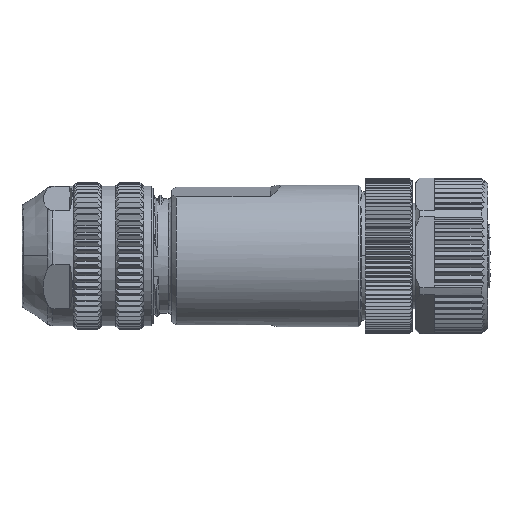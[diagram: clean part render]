
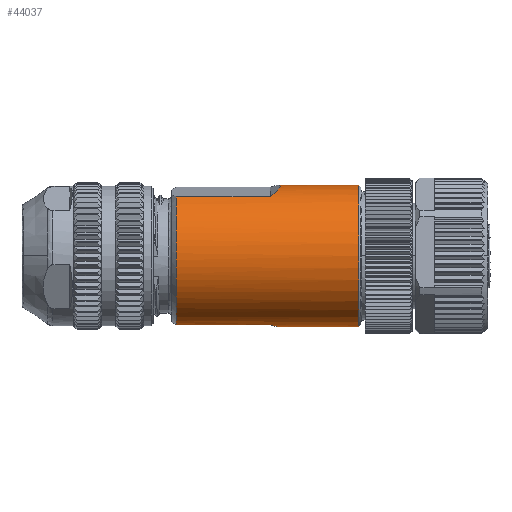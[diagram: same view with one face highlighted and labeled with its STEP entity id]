
A CAD part, top view. The second image highlights one B-rep face of the part: STEP entity #44037.
In plain terms, the highlighted cylindrical face has radius 9.06 mm (diameter 18.12 mm), a partial arc.
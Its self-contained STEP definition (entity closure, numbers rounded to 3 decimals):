
#104 = EDGE_CURVE ( 'NONE', #24553, #35416, #102437, .T. ) ;
#313 = CARTESIAN_POINT ( 'NONE',  ( -17.7, -8.339, 3.651 ) ) ;
#1721 = CARTESIAN_POINT ( 'NONE',  ( -17.7, -8.845, 1.961 ) ) ;
#2232 = ORIENTED_EDGE ( 'NONE', *, *, #88141, .T. ) ;
#2933 = CARTESIAN_POINT ( 'NONE',  ( -4.672, -9.06, 0. ) ) ;
#4516 = ORIENTED_EDGE ( 'NONE', *, *, #59266, .T. ) ;
#7847 = CARTESIAN_POINT ( 'NONE',  ( -17.7, -6.614, 6.207 ) ) ;
#8195 = CARTESIAN_POINT ( 'NONE',  ( -17.7, -3.762, 8.254 ) ) ;
#10297 = CARTESIAN_POINT ( 'NONE',  ( -5.656, -8.845, 1.961 ) ) ;
#11804 = DIRECTION ( 'NONE',  ( -1., 0., 0. ) ) ;
#14230 = CIRCLE ( 'NONE', #24419, 9.06 ) ;
#15332 = CARTESIAN_POINT ( 'NONE',  ( -17.7, 1.855, 8.879 ) ) ;
#17422 = CARTESIAN_POINT ( 'NONE',  ( -5.21, -8.988, 1.316 ) ) ;
#18520 = CARTESIAN_POINT ( 'NONE',  ( -17.1, 9.06, 0. ) ) ;
#20202 = DIRECTION ( 'NONE',  ( -1., 0., 0. ) ) ;
#21461 = VERTEX_POINT ( 'NONE', #92294 ) ;
#23203 = CARTESIAN_POINT ( 'NONE',  ( -5.656, -8.845, 1.961 ) ) ;
#23549 = CARTESIAN_POINT ( 'NONE',  ( -17.7, -2.086, 8.828 ) ) ;
#23893 = CARTESIAN_POINT ( 'NONE',  ( -17.7, -5.458, 7.234 ) ) ;
#24007 = CARTESIAN_POINT ( 'NONE',  ( 5.7, -9.06, 0. ) ) ;
#24253 = CARTESIAN_POINT ( 'NONE',  ( -17.7, -6.907, 5.88 ) ) ;
#24419 = AXIS2_PLACEMENT_3D ( 'NONE', #83199, #11804, #99535 ) ;
#24553 = VERTEX_POINT ( 'NONE', #34989 ) ;
#25315 = CARTESIAN_POINT ( 'NONE',  ( -17.7, -7.692, 4.807 ) ) ;
#25444 = ORIENTED_EDGE ( 'NONE', *, *, #32775, .F. ) ;
#28030 = CARTESIAN_POINT ( 'NONE',  ( -17.1, 0., 0. ) ) ;
#30000 = EDGE_CURVE ( 'NONE', #34169, #63819, #14230, .T. ) ;
#31422 = CARTESIAN_POINT ( 'NONE',  ( -17.7, 7.064, 5.743 ) ) ;
#31757 = CARTESIAN_POINT ( 'NONE',  ( -17.7, 1.423, 8.958 ) ) ;
#32775 = EDGE_CURVE ( 'NONE', #34169, #102875, #76618, .T. ) ;
#32778 = EDGE_CURVE ( 'NONE', #63819, #62917, #45972, .T. ) ;
#34002 = EDGE_LOOP ( 'NONE', ( #102851, #38996, #43763, #2232, #4516, #63761, #65264, #25444 ) ) ;
#34169 = VERTEX_POINT ( 'NONE', #24007 ) ;
#34184 = CARTESIAN_POINT ( 'NONE',  ( -4.88, -9.06, 0.66 ) ) ;
#34215 = DIRECTION ( 'NONE',  ( -1., 0., 0. ) ) ;
#34989 = CARTESIAN_POINT ( 'NONE',  ( -17.7, -8.845, 1.961 ) ) ;
#35057 = CARTESIAN_POINT ( 'NONE',  ( -4.444, 8.544, 3.506 ) ) ;
#35416 = VERTEX_POINT ( 'NONE', #23203 ) ;
#36922 = DIRECTION ( 'NONE',  ( 0., -1., 0. ) ) ;
#38996 = ORIENTED_EDGE ( 'NONE', *, *, #32778, .T. ) ;
#39616 = CARTESIAN_POINT ( 'NONE',  ( -17.7, 3.131, 8.513 ) ) ;
#40304 = CARTESIAN_POINT ( 'NONE',  ( -17.7, -1.222, 8.988 ) ) ;
#40621 = DIRECTION ( 'NONE',  ( 1., 0., 0. ) ) ;
#40652 = CARTESIAN_POINT ( 'NONE',  ( -17.7, 6.475, 6.399 ) ) ;
#41190 = B_SPLINE_CURVE_WITH_KNOTS ( 'NONE', 3,
 ( #80343, #31422, #40652, #48212, #88531, #39616, #105216, #15332, #31757, #96699, #104875, #57103, #40304, #23549, #88857, #56418, #8195, #64635, #65338, #23893, #81046, #48556, #105562, #7847, #24253, #73539, #25315, #313, #82106, #1721 ),
 .UNSPECIFIED., .F., .F.,
 ( 4, 2, 2, 2, 2, 2, 2, 2, 2, 2, 2, 2, 2, 2, 4 ),
 ( 0., 0.003, 0.005, 0.007, 0.008, 0.009, 0.011, 0.012, 0.013, 0.015, 0.015, 0.016, 0.017, 0.019, 0.021 ),
 .UNSPECIFIED. ) ;
#43763 = ORIENTED_EDGE ( 'NONE', *, *, #73738, .T. ) ;
#44037 = ADVANCED_FACE ( 'NONE', ( #94242 ), #103098, .T. ) ;
#45972 = LINE ( 'NONE', #18520, #102119 ) ;
#48012 = EDGE_CURVE ( 'NONE', #35416, #102875, #74705, .T. ) ;
#48212 = CARTESIAN_POINT ( 'NONE',  ( -17.7, 5.105, 7.538 ) ) ;
#48556 = CARTESIAN_POINT ( 'NONE',  ( -17.7, -5.976, 6.814 ) ) ;
#50450 = CARTESIAN_POINT ( 'NONE',  ( -4.672, 9.06, 0. ) ) ;
#50793 = CARTESIAN_POINT ( 'NONE',  ( -5.656, 7.556, 5. ) ) ;
#51877 = VERTEX_POINT ( 'NONE', #66117 ) ;
#56418 = CARTESIAN_POINT ( 'NONE',  ( -17.7, -3.356, 8.427 ) ) ;
#56489 = CARTESIAN_POINT ( 'NONE',  ( -4.672, 9.06, 0. ) ) ;
#57103 = CARTESIAN_POINT ( 'NONE',  ( -17.7, -0.785, 9.037 ) ) ;
#58490 = CARTESIAN_POINT ( 'NONE',  ( -4.672, -9.06, 0. ) ) ;
#58643 = DIRECTION ( 'NONE',  ( -1., 0., 0. ) ) ;
#58782 = VECTOR ( 'NONE', #58643, 1000. ) ;
#59266 = EDGE_CURVE ( 'NONE', #51877, #24553, #41190, .T. ) ;
#61665 = VECTOR ( 'NONE', #40621, 1000. ) ;
#62917 = VERTEX_POINT ( 'NONE', #56489 ) ;
#63761 = ORIENTED_EDGE ( 'NONE', *, *, #104, .T. ) ;
#63819 = VERTEX_POINT ( 'NONE', #69851 ) ;
#64635 = CARTESIAN_POINT ( 'NONE',  ( -17.7, -4.543, 7.851 ) ) ;
#65264 = ORIENTED_EDGE ( 'NONE', *, *, #48012, .T. ) ;
#65338 = CARTESIAN_POINT ( 'NONE',  ( -17.7, -4.918, 7.622 ) ) ;
#66117 = CARTESIAN_POINT ( 'NONE',  ( -17.7, 7.556, 5. ) ) ;
#69851 = CARTESIAN_POINT ( 'NONE',  ( 5.7, 9.06, 0. ) ) ;
#73539 = CARTESIAN_POINT ( 'NONE',  ( -17.7, -7.445, 5.181 ) ) ;
#73738 = EDGE_CURVE ( 'NONE', #62917, #21461, #92287, .T. ) ;
#74705 =( BOUNDED_CURVE ( )  B_SPLINE_CURVE ( 3, ( #10297, #17422, #34184, #58490 ),
 .UNSPECIFIED., .F., .F. ) 
 B_SPLINE_CURVE_WITH_KNOTS ( ( 4, 4 ),
 ( 2.74, 2.958 ),
 .UNSPECIFIED. ) 
 CURVE ( )  GEOMETRIC_REPRESENTATION_ITEM ( )  RATIONAL_B_SPLINE_CURVE ( ( 1., 0.996, 0.996, 1. ) ) 
 REPRESENTATION_ITEM ( '' )  );
#76618 = LINE ( 'NONE', #80045, #58782 ) ;
#80045 = CARTESIAN_POINT ( 'NONE',  ( -17.1, -9.06, 0. ) ) ;
#80343 = CARTESIAN_POINT ( 'NONE',  ( -17.7, 7.556, 5. ) ) ;
#81046 = CARTESIAN_POINT ( 'NONE',  ( -17.7, -5.635, 7.098 ) ) ;
#82106 = CARTESIAN_POINT ( 'NONE',  ( -17.7, -8.652, 2.831 ) ) ;
#83199 = CARTESIAN_POINT ( 'NONE',  ( 5.7, 0., 0. ) ) ;
#88141 = EDGE_CURVE ( 'NONE', #21461, #51877, #100821, .T. ) ;
#88531 = CARTESIAN_POINT ( 'NONE',  ( -17.7, 4.353, 7.995 ) ) ;
#88857 = CARTESIAN_POINT ( 'NONE',  ( -17.7, -2.514, 8.716 ) ) ;
#92287 =( BOUNDED_CURVE ( )  B_SPLINE_CURVE ( 3, ( #50450, #99633, #35057, #50793 ),
 .UNSPECIFIED., .F., .F. ) 
 B_SPLINE_CURVE_WITH_KNOTS ( ( 4, 4 ),
 ( 2.958, 3.543 ),
 .UNSPECIFIED. ) 
 CURVE ( )  GEOMETRIC_REPRESENTATION_ITEM ( )  RATIONAL_B_SPLINE_CURVE ( ( 1., 0.972, 0.972, 1. ) ) 
 REPRESENTATION_ITEM ( '' )  );
#92294 = CARTESIAN_POINT ( 'NONE',  ( -5.656, 7.556, 5. ) ) ;
#92946 = DIRECTION ( 'NONE',  ( -1., 0., 0. ) ) ;
#94068 = CARTESIAN_POINT ( 'NONE',  ( -17.1, 7.556, 5. ) ) ;
#94242 = FACE_OUTER_BOUND ( 'NONE', #34002, .T. ) ;
#95742 = VECTOR ( 'NONE', #20202, 1000. ) ;
#95967 = AXIS2_PLACEMENT_3D ( 'NONE', #28030, #92946, #36922 ) ;
#96699 = CARTESIAN_POINT ( 'NONE',  ( -17.7, 0.547, 9.054 ) ) ;
#97010 = CARTESIAN_POINT ( 'NONE',  ( -17.1, -8.845, 1.961 ) ) ;
#99535 = DIRECTION ( 'NONE',  ( 0., -1., 0. ) ) ;
#99633 = CARTESIAN_POINT ( 'NONE',  ( -4.107, 9.06, 1.791 ) ) ;
#100821 = LINE ( 'NONE', #94068, #95742 ) ;
#102119 = VECTOR ( 'NONE', #34215, 1000. ) ;
#102437 = LINE ( 'NONE', #97010, #61665 ) ;
#102851 = ORIENTED_EDGE ( 'NONE', *, *, #30000, .T. ) ;
#102875 = VERTEX_POINT ( 'NONE', #2933 ) ;
#103098 = CYLINDRICAL_SURFACE ( 'NONE', #95967, 9.06 ) ;
#104875 = CARTESIAN_POINT ( 'NONE',  ( -17.7, 0.099, 9.07 ) ) ;
#105216 = CARTESIAN_POINT ( 'NONE',  ( -17.7, 2.707, 8.657 ) ) ;
#105562 = CARTESIAN_POINT ( 'NONE',  ( -17.7, -6.14, 6.666 ) ) ;
